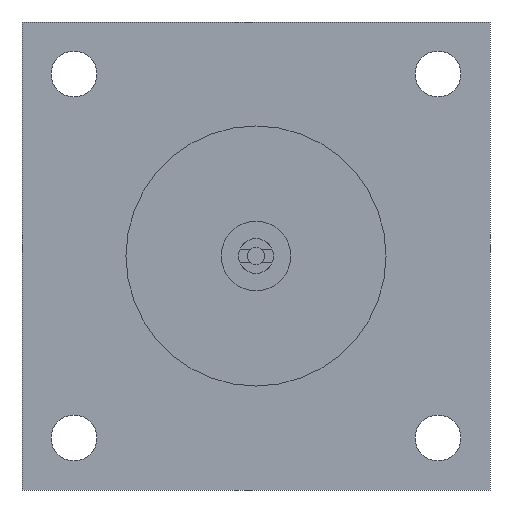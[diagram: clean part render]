
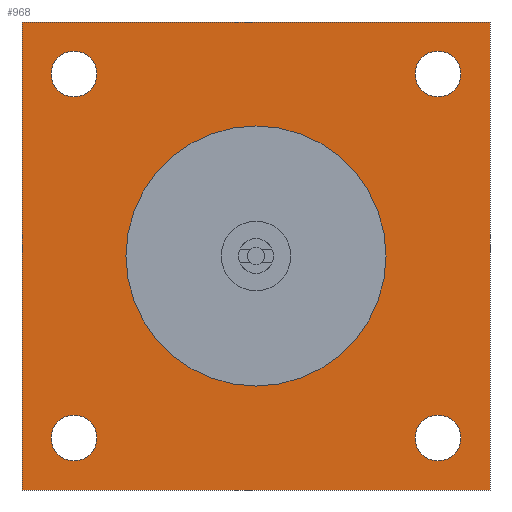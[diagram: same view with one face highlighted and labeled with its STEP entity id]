
A CAD part, left-side view. The second image highlights one B-rep face of the part: STEP entity #968.
In plain terms, the highlighted planar face has unit normal (-1, 0, 0).
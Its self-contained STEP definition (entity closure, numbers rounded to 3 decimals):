
#2 = AXIS2_PLACEMENT_3D ( 'NONE', #431, #442, #448 ) ;
#4 = AXIS2_PLACEMENT_3D ( 'NONE', #290, #300, #304 ) ;
#9 = VECTOR ( 'NONE', #587, 1000. ) ;
#11 = DIRECTION ( 'NONE',  ( -1., 0., 0. ) ) ;
#12 = CARTESIAN_POINT ( 'NONE',  ( -25., 135., 135. ) ) ;
#34 = CARTESIAN_POINT ( 'NONE',  ( -25., 0., 75. ) ) ;
#37 = CARTESIAN_POINT ( 'NONE',  ( -25., 0., 0. ) ) ;
#51 = EDGE_LOOP ( 'NONE', ( #369, #99 ) ) ;
#60 = ORIENTED_EDGE ( 'NONE', *, *, #1627, .F. ) ;
#75 = ORIENTED_EDGE ( 'NONE', *, *, #104, .F. ) ;
#78 = ORIENTED_EDGE ( 'NONE', *, *, #1497, .F. ) ;
#93 = ORIENTED_EDGE ( 'NONE', *, *, #248, .T. ) ;
#95 = ORIENTED_EDGE ( 'NONE', *, *, #1009, .T. ) ;
#99 = ORIENTED_EDGE ( 'NONE', *, *, #938, .F. ) ;
#104 = EDGE_CURVE ( 'NONE', #633, #903, #1077, .T. ) ;
#111 = ORIENTED_EDGE ( 'NONE', *, *, #1108, .T. ) ;
#124 = ORIENTED_EDGE ( 'NONE', *, *, #1343, .F. ) ;
#125 = DIRECTION ( 'NONE',  ( 0., 0., 1. ) ) ;
#152 = EDGE_CURVE ( 'NONE', #1366, #686, #999, .T. ) ;
#165 = ORIENTED_EDGE ( 'NONE', *, *, #789, .T. ) ;
#171 = FACE_BOUND ( 'NONE', #774, .T. ) ;
#173 = FACE_BOUND ( 'NONE', #1581, .T. ) ;
#190 = EDGE_LOOP ( 'NONE', ( #1423, #60 ) ) ;
#248 = EDGE_CURVE ( 'NONE', #397, #1702, #760, .T. ) ;
#259 = EDGE_CURVE ( 'NONE', #1568, #1675, #733, .T. ) ;
#290 = CARTESIAN_POINT ( 'NONE',  ( -25., 105., -105. ) ) ;
#296 = CARTESIAN_POINT ( 'NONE',  ( -25., 105., -118.25 ) ) ;
#300 = DIRECTION ( 'NONE',  ( -1., 0., 0. ) ) ;
#304 = DIRECTION ( 'NONE',  ( 0., 0., 1. ) ) ;
#320 = EDGE_LOOP ( 'NONE', ( #1136, #1464 ) ) ;
#328 = CIRCLE ( 'NONE', #506, 13.25 ) ;
#356 = AXIS2_PLACEMENT_3D ( 'NONE', #514, #524, #528 ) ;
#369 = ORIENTED_EDGE ( 'NONE', *, *, #259, .F. ) ;
#375 = CIRCLE ( 'NONE', #693, 75. ) ;
#392 = VECTOR ( 'NONE', #652, 1000. ) ;
#397 = VERTEX_POINT ( 'NONE', #732 ) ;
#398 = DIRECTION ( 'NONE',  ( 0., 0., -1. ) ) ;
#412 = AXIS2_PLACEMENT_3D ( 'NONE', #860, #869, #876 ) ;
#431 = CARTESIAN_POINT ( 'NONE',  ( -25., -105., -105. ) ) ;
#434 = AXIS2_PLACEMENT_3D ( 'NONE', #1047, #1057, #1060 ) ;
#437 = LINE ( 'NONE', #1450, #1205 ) ;
#442 = DIRECTION ( 'NONE',  ( -1., 0., 0. ) ) ;
#448 = DIRECTION ( 'NONE',  ( 0., 0., 1. ) ) ;
#506 = AXIS2_PLACEMENT_3D ( 'NONE', #1561, #1565, #1571 ) ;
#514 = CARTESIAN_POINT ( 'NONE',  ( -25., 105., -105. ) ) ;
#524 = DIRECTION ( 'NONE',  ( -1., 0., 0. ) ) ;
#528 = DIRECTION ( 'NONE',  ( 0., 0., 1. ) ) ;
#548 = CIRCLE ( 'NONE', #434, 13.25 ) ;
#551 = AXIS2_PLACEMENT_3D ( 'NONE', #854, #865, #872 ) ;
#554 = EDGE_CURVE ( 'NONE', #930, #1106, #375, .T. ) ;
#563 = FACE_OUTER_BOUND ( 'NONE', #1258, .T. ) ;
#587 = DIRECTION ( 'NONE',  ( 0., -1., 0. ) ) ;
#615 = CIRCLE ( 'NONE', #412, 13.25 ) ;
#633 = VERTEX_POINT ( 'NONE', #1368 ) ;
#639 = CARTESIAN_POINT ( 'NONE',  ( -25., 0., -75. ) ) ;
#652 = DIRECTION ( 'NONE',  ( 0., 0., 1. ) ) ;
#664 = CARTESIAN_POINT ( 'NONE',  ( -25., -105., 118.25 ) ) ;
#680 = CARTESIAN_POINT ( 'NONE',  ( -25., 105., 91.75 ) ) ;
#686 = VERTEX_POINT ( 'NONE', #1656 ) ;
#693 = AXIS2_PLACEMENT_3D ( 'NONE', #893, #943, #988 ) ;
#732 = CARTESIAN_POINT ( 'NONE',  ( -25., 135., -135. ) ) ;
#733 = CIRCLE ( 'NONE', #551, 13.25 ) ;
#758 = FACE_BOUND ( 'NONE', #51, .T. ) ;
#760 = LINE ( 'NONE', #788, #9 ) ;
#774 = EDGE_LOOP ( 'NONE', ( #75, #78 ) ) ;
#788 = CARTESIAN_POINT ( 'NONE',  ( -25., 135., -135. ) ) ;
#789 = EDGE_CURVE ( 'NONE', #1191, #397, #437, .T. ) ;
#814 = CIRCLE ( 'NONE', #356, 13.25 ) ;
#838 = CARTESIAN_POINT ( 'NONE',  ( -25., -135., 135. ) ) ;
#854 = CARTESIAN_POINT ( 'NONE',  ( -25., -105., 105. ) ) ;
#860 = CARTESIAN_POINT ( 'NONE',  ( -25., -105., -105. ) ) ;
#865 = DIRECTION ( 'NONE',  ( -1., 0., 0. ) ) ;
#869 = DIRECTION ( 'NONE',  ( -1., 0., 0. ) ) ;
#872 = DIRECTION ( 'NONE',  ( 0., 0., 1. ) ) ;
#876 = DIRECTION ( 'NONE',  ( 0., 0., 1. ) ) ;
#893 = CARTESIAN_POINT ( 'NONE',  ( -25., 0., 0. ) ) ;
#903 = VERTEX_POINT ( 'NONE', #296 ) ;
#930 = VERTEX_POINT ( 'NONE', #639 ) ;
#938 = EDGE_CURVE ( 'NONE', #1675, #1568, #1706, .T. ) ;
#943 = DIRECTION ( 'NONE',  ( -1., 0., 0. ) ) ;
#968 = ADVANCED_FACE ( 'NONE', ( #173, #758, #1342, #1280, #171, #563 ), #1431, .F. ) ;
#987 = DIRECTION ( 'NONE',  ( -1., 0., 0. ) ) ;
#988 = DIRECTION ( 'NONE',  ( 0., 0., -1. ) ) ;
#999 = CIRCLE ( 'NONE', #2, 13.25 ) ;
#1009 = EDGE_CURVE ( 'NONE', #1702, #1065, #1475, .T. ) ;
#1047 = CARTESIAN_POINT ( 'NONE',  ( -25., 105., 105. ) ) ;
#1057 = DIRECTION ( 'NONE',  ( -1., 0., 0. ) ) ;
#1060 = DIRECTION ( 'NONE',  ( 0., 0., 1. ) ) ;
#1065 = VERTEX_POINT ( 'NONE', #1607 ) ;
#1077 = CIRCLE ( 'NONE', #4, 13.25 ) ;
#1106 = VERTEX_POINT ( 'NONE', #34 ) ;
#1108 = EDGE_CURVE ( 'NONE', #1065, #1191, #1738, .T. ) ;
#1136 = ORIENTED_EDGE ( 'NONE', *, *, #152, .F. ) ;
#1156 = CARTESIAN_POINT ( 'NONE',  ( -25., -105., 91.75 ) ) ;
#1191 = VERTEX_POINT ( 'NONE', #1730 ) ;
#1193 = DIRECTION ( 'NONE',  ( 0., 0., -1. ) ) ;
#1205 = VECTOR ( 'NONE', #1193, 1000. ) ;
#1248 = CARTESIAN_POINT ( 'NONE',  ( -25., -105., 105. ) ) ;
#1258 = EDGE_LOOP ( 'NONE', ( #93, #95, #111, #165 ) ) ;
#1276 = ORIENTED_EDGE ( 'NONE', *, *, #554, .F. ) ;
#1280 = FACE_BOUND ( 'NONE', #190, .T. ) ;
#1328 = AXIS2_PLACEMENT_3D ( 'NONE', #1658, #1400, #1382 ) ;
#1334 = CARTESIAN_POINT ( 'NONE',  ( -25., -135., -135. ) ) ;
#1342 = FACE_BOUND ( 'NONE', #320, .T. ) ;
#1343 = EDGE_CURVE ( 'NONE', #1106, #930, #1389, .T. ) ;
#1366 = VERTEX_POINT ( 'NONE', #1415 ) ;
#1368 = CARTESIAN_POINT ( 'NONE',  ( -25., 105., -91.75 ) ) ;
#1382 = DIRECTION ( 'NONE',  ( 0., 0., -1. ) ) ;
#1389 = CIRCLE ( 'NONE', #1401, 75. ) ;
#1400 = DIRECTION ( 'NONE',  ( 1., 0., 0. ) ) ;
#1401 = AXIS2_PLACEMENT_3D ( 'NONE', #37, #11, #398 ) ;
#1415 = CARTESIAN_POINT ( 'NONE',  ( -25., -105., -91.75 ) ) ;
#1423 = ORIENTED_EDGE ( 'NONE', *, *, #1762, .F. ) ;
#1431 = PLANE ( 'NONE',  #1328 ) ;
#1450 = CARTESIAN_POINT ( 'NONE',  ( -25., 135., 135. ) ) ;
#1464 = ORIENTED_EDGE ( 'NONE', *, *, #1591, .F. ) ;
#1475 = LINE ( 'NONE', #838, #392 ) ;
#1497 = EDGE_CURVE ( 'NONE', #903, #633, #814, .T. ) ;
#1535 = CARTESIAN_POINT ( 'NONE',  ( -25., 105., 118.25 ) ) ;
#1551 = VERTEX_POINT ( 'NONE', #680 ) ;
#1561 = CARTESIAN_POINT ( 'NONE',  ( -25., 105., 105. ) ) ;
#1565 = DIRECTION ( 'NONE',  ( -1., 0., 0. ) ) ;
#1568 = VERTEX_POINT ( 'NONE', #664 ) ;
#1571 = DIRECTION ( 'NONE',  ( 0., 0., 1. ) ) ;
#1574 = AXIS2_PLACEMENT_3D ( 'NONE', #1248, #987, #125 ) ;
#1581 = EDGE_LOOP ( 'NONE', ( #1276, #124 ) ) ;
#1591 = EDGE_CURVE ( 'NONE', #686, #1366, #615, .T. ) ;
#1607 = CARTESIAN_POINT ( 'NONE',  ( -25., -135., 135. ) ) ;
#1627 = EDGE_CURVE ( 'NONE', #1551, #1772, #548, .T. ) ;
#1656 = CARTESIAN_POINT ( 'NONE',  ( -25., -105., -118.25 ) ) ;
#1658 = CARTESIAN_POINT ( 'NONE',  ( -25., 0., 0. ) ) ;
#1675 = VERTEX_POINT ( 'NONE', #1156 ) ;
#1702 = VERTEX_POINT ( 'NONE', #1334 ) ;
#1706 = CIRCLE ( 'NONE', #1574, 13.25 ) ;
#1718 = VECTOR ( 'NONE', #1792, 1000. ) ;
#1730 = CARTESIAN_POINT ( 'NONE',  ( -25., 135., 135. ) ) ;
#1738 = LINE ( 'NONE', #12, #1718 ) ;
#1762 = EDGE_CURVE ( 'NONE', #1772, #1551, #328, .T. ) ;
#1772 = VERTEX_POINT ( 'NONE', #1535 ) ;
#1792 = DIRECTION ( 'NONE',  ( 0., 1., 0. ) ) ;
